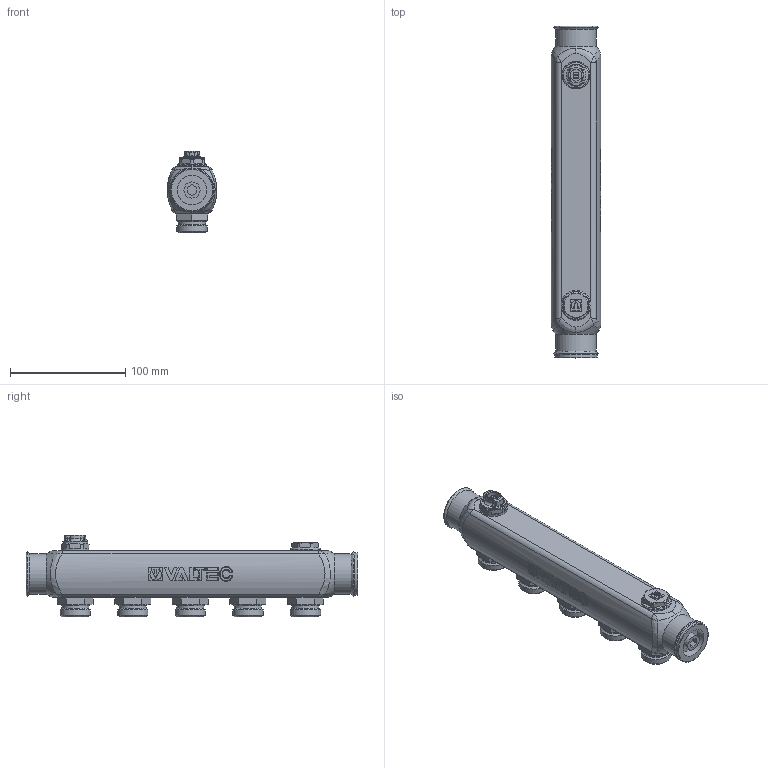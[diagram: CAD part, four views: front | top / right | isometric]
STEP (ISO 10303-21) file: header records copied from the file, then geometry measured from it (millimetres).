
FILE_DESCRIPTION(('STEP AP203'), '1');
FILE_NAME('覆.622621.032.000 捘 - VTc.505.SS.060505', '2024-08-29T10:09:53', ('Boss'), (''), 'C3D Converter', 'C3D Toolkit', '');
FILE_SCHEMA(('CONFIG_CONTROL_DESIGN'));
Length unit declared in the file: millimetre
Products named in the file (1): ВР.622621.032.000 СБ
Bounding box: 43 x 288.5 x 71.1 mm (x, y, z)
Volume: 396685 mm3; surface area: 113034.6 mm2
Topology: 1 solids, 25 shells, 754 faces, 1808 edges, 1130 vertices
Faces by surface type: plane 319, cylinder 189, bspline 94, cone 91, torus 61
Full cylindrical faces by diameter (mm): 5 x1, 10.2 x1, 12.5 x5, 14 x1, 18.1 x5, 22 x1, 23.5 x5, 24 x1, 25.5 x1, 26 x1, 26.441 x5, 30.292 x1, 35.5 x2, 37 x1
Entity records: 50331 total; most frequent: CARTESIAN_POINT 34463, ORIENTED_EDGE 3402, DIRECTION 2885, EDGE_CURVE 1701, VERTEX_POINT 1146, AXIS2_PLACEMENT_3D 1145, EDGE_LOOP 878, FACE_BOUND 775
